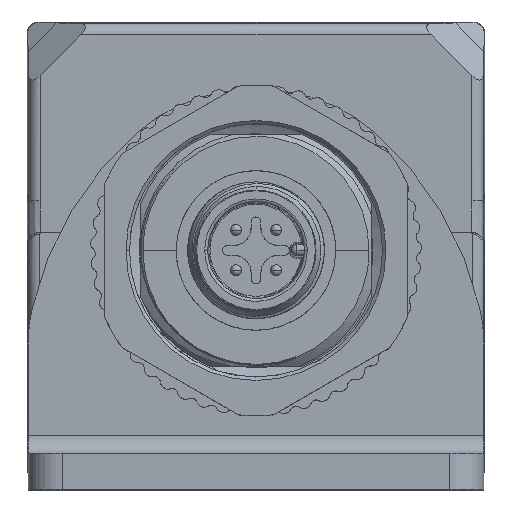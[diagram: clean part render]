
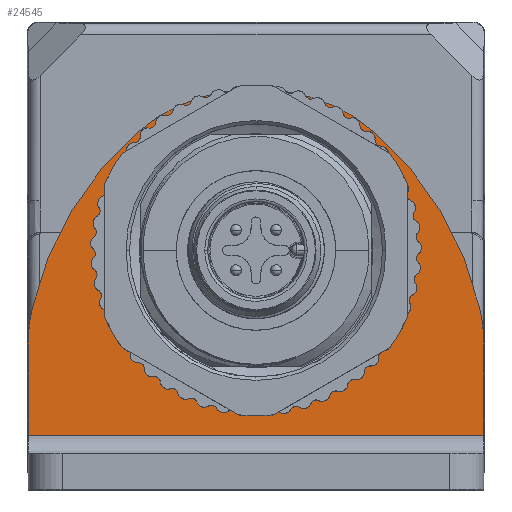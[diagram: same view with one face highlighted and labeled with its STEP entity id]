
A CAD part, top view. The second image highlights one B-rep face of the part: STEP entity #24545.
In plain terms, the highlighted planar face has unit normal (0, 0, 1).
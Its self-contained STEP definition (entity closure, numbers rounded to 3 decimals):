
#24043=DIRECTION('',(0.,1.,0.));
#24044=VECTOR('',#24043,7.846);
#24045=CARTESIAN_POINT('',(20.,-16.225,43.175));
#24046=LINE('',#24045,#24044);
#24055=CARTESIAN_POINT('',(-5.,-8.379,43.175));
#24056=DIRECTION('',(0.,0.,-1.));
#24057=DIRECTION('',(-1.,0.,0.));
#24058=AXIS2_PLACEMENT_3D('',#24055,#24056,#24057);
#24060=CARTESIAN_POINT('',(8.651,-11.486,43.175));
#24061=DIRECTION('',(0.,0.,-1.));
#24062=DIRECTION('',(-0.975,0.222,0.));
#24063=AXIS2_PLACEMENT_3D('',#24060,#24061,#24062);
#24065=CARTESIAN_POINT('',(-0.511,-0.9,43.175));
#24066=DIRECTION('',(0.,0.,-1.));
#24067=DIRECTION('',(-0.654,0.756,0.));
#24068=AXIS2_PLACEMENT_3D('',#24065,#24066,#24067);
#24070=CARTESIAN_POINT('',(0.511,-0.9,43.175));
#24071=DIRECTION('',(0.,0.,-1.));
#24072=DIRECTION('',(0.,1.,0.));
#24073=AXIS2_PLACEMENT_3D('',#24070,#24071,#24072);
#24075=CARTESIAN_POINT('',(-8.651,-11.486,43.175));
#24076=DIRECTION('',(0.,0.,-1.));
#24077=DIRECTION('',(0.654,0.756,0.));
#24078=AXIS2_PLACEMENT_3D('',#24075,#24076,#24077);
#24080=CARTESIAN_POINT('',(5.,-8.379,43.175));
#24081=DIRECTION('',(0.,0.,-1.));
#24082=DIRECTION('',(0.975,0.222,0.));
#24083=AXIS2_PLACEMENT_3D('',#24080,#24081,#24082);
#24085=DIRECTION('',(0.,1.,0.));
#24086=VECTOR('',#24085,7.846);
#24087=CARTESIAN_POINT('',(-20.,-16.225,43.175));
#24088=LINE('',#24087,#24086);
#24089=CARTESIAN_POINT('',(0.,0.,43.175));
#24090=DIRECTION('',(0.,0.,1.));
#24091=DIRECTION('',(0.,1.,0.));
#24092=AXIS2_PLACEMENT_3D('',#24089,#24090,#24091);
#24094=CARTESIAN_POINT('',(0.,0.,43.175));
#24095=DIRECTION('',(0.,0.,1.));
#24096=DIRECTION('',(0.,-1.,0.));
#24097=AXIS2_PLACEMENT_3D('',#24094,#24095,#24096);
#24107=DIRECTION('',(-1.,0.,0.));
#24108=VECTOR('',#24107,1.021);
#24109=CARTESIAN_POINT('',(0.511,14.1,43.175));
#24110=LINE('',#24109,#24108);
#24119=DIRECTION('',(1.,0.,0.));
#24120=VECTOR('',#24119,40.);
#24121=CARTESIAN_POINT('',(-20.,-16.225,43.175));
#24122=LINE('',#24121,#24120);
#24291=CARTESIAN_POINT('',(-20.,-8.379,43.175));
#24293=VERTEX_POINT('',#24291);
#24295=CARTESIAN_POINT('',(-20.,-16.225,43.175));
#24296=VERTEX_POINT('',#24295);
#24309=CARTESIAN_POINT('',(-19.626,-5.05,43.175));
#24310=VERTEX_POINT('',#24309);
#24329=CARTESIAN_POINT('',(0.,11.125,43.175));
#24330=CARTESIAN_POINT('',(0.,-11.125,43.175));
#24331=VERTEX_POINT('',#24329);
#24332=VERTEX_POINT('',#24330);
#24333=CARTESIAN_POINT('',(-10.326,10.442,43.175));
#24334=VERTEX_POINT('',#24333);
#24335=CARTESIAN_POINT('',(-0.511,14.1,43.175));
#24336=VERTEX_POINT('',#24335);
#24337=CARTESIAN_POINT('',(0.511,14.1,43.175));
#24338=VERTEX_POINT('',#24337);
#24339=CARTESIAN_POINT('',(10.326,10.442,43.175));
#24340=VERTEX_POINT('',#24339);
#24341=CARTESIAN_POINT('',(19.626,-5.05,43.175));
#24342=VERTEX_POINT('',#24341);
#24343=CARTESIAN_POINT('',(20.,-8.379,43.175));
#24344=VERTEX_POINT('',#24343);
#24345=CARTESIAN_POINT('',(20.,-16.225,43.175));
#24346=VERTEX_POINT('',#24345);
#24516=CARTESIAN_POINT('',(-20.,14.1,43.175));
#24517=DIRECTION('',(0.,0.,1.));
#24518=DIRECTION('',(0.,-1.,0.));
#24519=AXIS2_PLACEMENT_3D('',#24516,#24517,#24518);
#24520=PLANE('',#24519);
#24521=ORIENTED_EDGE('',*,*,#24428,.T.);
#24523=ORIENTED_EDGE('',*,*,#24522,.T.);
#24525=ORIENTED_EDGE('',*,*,#24524,.T.);
#24527=ORIENTED_EDGE('',*,*,#24526,.F.);
#24529=ORIENTED_EDGE('',*,*,#24528,.T.);
#24531=ORIENTED_EDGE('',*,*,#24530,.T.);
#24532=ORIENTED_EDGE('',*,*,#24507,.T.);
#24533=ORIENTED_EDGE('',*,*,#24497,.F.);
#24535=ORIENTED_EDGE('',*,*,#24534,.F.);
#24536=ORIENTED_EDGE('',*,*,#24402,.T.);
#24537=EDGE_LOOP('',(#24521,#24523,#24525,#24527,#24529,#24531,#24532,#24533,
#24535,#24536));
#24538=FACE_OUTER_BOUND('',#24537,.F.);
#24540=ORIENTED_EDGE('',*,*,#24539,.T.);
#24542=ORIENTED_EDGE('',*,*,#24541,.T.);
#24543=EDGE_LOOP('',(#24540,#24542));
#24544=FACE_BOUND('',#24543,.F.);
#24545=ADVANCED_FACE('',(#24538,#24544),#24520,.T.);
#24059=CIRCLE('',#24058,15.);
#24064=CIRCLE('',#24063,29.);
#24069=CIRCLE('',#24068,15.);
#24074=CIRCLE('',#24073,15.);
#24079=CIRCLE('',#24078,29.);
#24084=CIRCLE('',#24083,15.);
#24093=CIRCLE('',#24092,11.125);
#24098=CIRCLE('',#24097,11.125);
#24402=EDGE_CURVE('',#24296,#24293,#24088,.T.);
#24428=EDGE_CURVE('',#24293,#24310,#24059,.T.);
#24497=EDGE_CURVE('',#24346,#24344,#24046,.T.);
#24507=EDGE_CURVE('',#24342,#24344,#24084,.T.);
#24522=EDGE_CURVE('',#24310,#24334,#24064,.T.);
#24524=EDGE_CURVE('',#24334,#24336,#24069,.T.);
#24526=EDGE_CURVE('',#24338,#24336,#24110,.T.);
#24528=EDGE_CURVE('',#24338,#24340,#24074,.T.);
#24530=EDGE_CURVE('',#24340,#24342,#24079,.T.);
#24534=EDGE_CURVE('',#24296,#24346,#24122,.T.);
#24539=EDGE_CURVE('',#24331,#24332,#24093,.T.);
#24541=EDGE_CURVE('',#24332,#24331,#24098,.T.);
